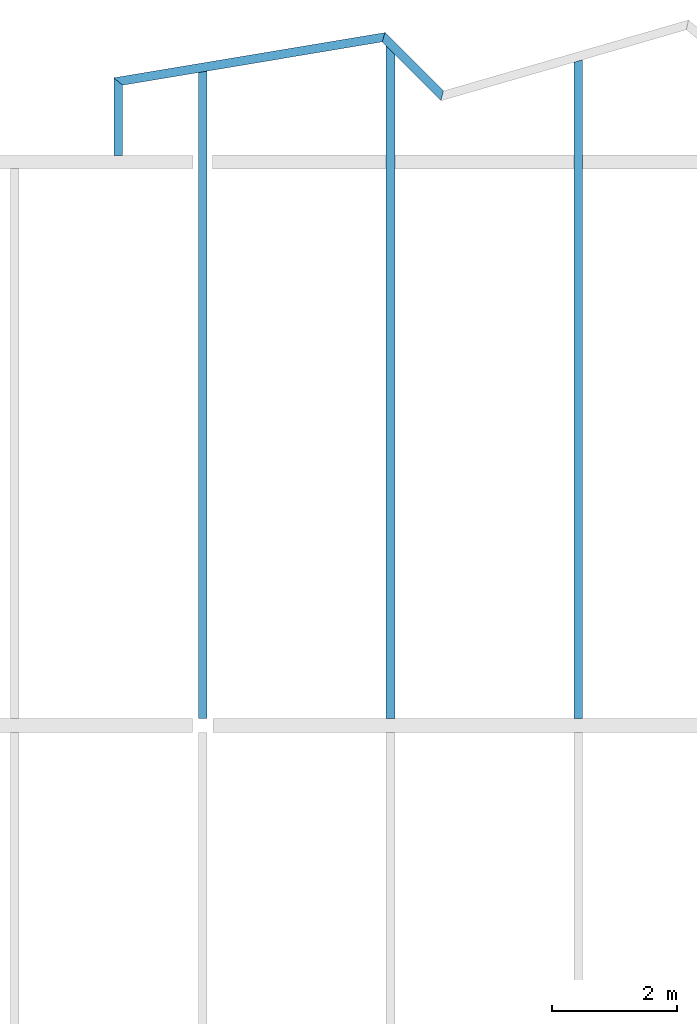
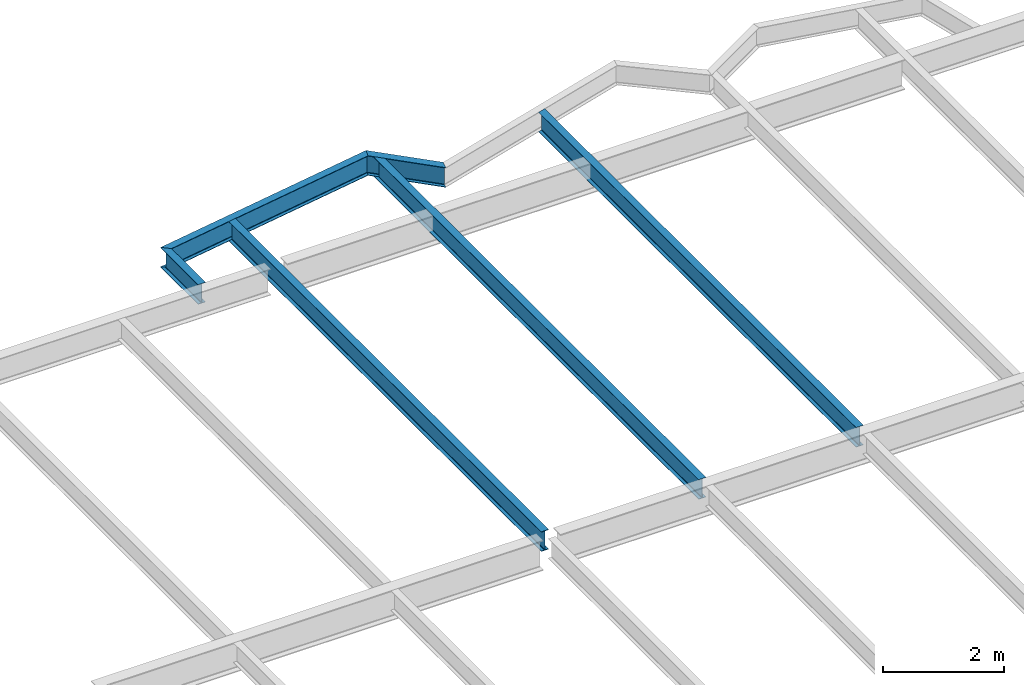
# One storey, part 10 of 26: 6 beams.
"""IFC2X3 building model written with IfcOpenShell, lengths in millimetres."""

import ifcopenshell
import ifcopenshell.guid

model = None  # the IFC model being written
_history = None  # IfcOwnerHistory: only IFC2X3 demands one
_inside = {}  # id of a spatial element -> (the spatial element, [elements in it])
_under = {}  # id of a project, library or spatial element -> (it, [spatial elements below it])
_declared = {}  # id of a project -> (the project, [libraries it declares])
_typed = {}  # id of a type object -> (the type object, [elements of that type])
_made_of = {}  # id of a material, layer set ... -> (it, [elements and type objects made of it])


def new_model(schema):
    """Start an empty IFC model of exactly this schema.

    Asked for "IFC4X3", IfcOpenShell would pick the latest addendum, in which some entities
    have other attributes; the version numbers below select the first issue.
    IFC2X3 requires an IfcOwnerHistory on every rooted entity: one is made here for all.
    """
    global model, _history
    if schema == "IFC4X3":
        model = ifcopenshell.file(schema_version=(4, 3, 0, 0))
    else:
        model = ifcopenshell.file(schema=schema)
    _inside.clear()
    _under.clear()
    _declared.clear()
    _typed.clear()
    _made_of.clear()
    _history = None
    if model.schema == "IFC2X3":
        org = make("IfcOrganization", Name="unknown")
        user = make(
            "IfcPersonAndOrganization",
            ThePerson=make("IfcPerson", FamilyName="unknown"),
            TheOrganization=org,
        )
        app = make(
            "IfcApplication",
            ApplicationDeveloper=org,
            Version="unknown",
            ApplicationFullName="unknown",
            ApplicationIdentifier="unknown",
        )
        _history = make(
            "IfcOwnerHistory",
            OwningUser=user,
            OwningApplication=app,
            ChangeAction="ADDED",
            CreationDate=0,
        )
    return model


def make(cls, **values):
    """One entity of the class cls with the attributes given. An attribute that is None is left unset."""
    return model.create_entity(
        cls, **{name: value for name, value in values.items() if value is not None}
    )


def rooted(cls, **values):
    """An entity with a GlobalId (a new one), such as an element, a storey or a relation."""
    return make(cls, GlobalId=ifcopenshell.guid.new(), OwnerHistory=_history, **values)


def si_unit(unit_type, name, prefix=None):
    """IfcSIUnit, for example si_unit("LENGTHUNIT", "METRE", prefix="MILLI")."""
    return make("IfcSIUnit", UnitType=unit_type, Prefix=prefix, Name=name)


def assignment(units):
    """IfcUnitAssignment: the units of a project."""
    return None if units is None else make("IfcUnitAssignment", Units=units)


def point(xyz):
    """IfcCartesianPoint."""
    return None if xyz is None else make("IfcCartesianPoint", Coordinates=xyz)


def direction(xyz):
    """IfcDirection."""
    return None if xyz is None else make("IfcDirection", DirectionRatios=xyz)


def frame(location, z_axis=None, x_axis=None):
    """IfcAxis2Placement3D, a coordinate frame: its origin and axes. An axis left out is left unset."""
    return make(
        "IfcAxis2Placement3D",
        Location=point(location),
        Axis=direction(z_axis),
        RefDirection=direction(x_axis),
    )


def origin():
    """The frame at (0, 0, 0) with its axes left unset."""
    return frame((0.0, 0.0, 0.0))


def place(relative_to, where):
    """IfcLocalPlacement: puts the frame where relative to a parent placement (None: the world)."""
    return make(
        "IfcLocalPlacement", PlacementRelTo=relative_to, RelativePlacement=where
    )


def context(
    kind, dimensions, precision=None, world=None, true_north=None, identifier=None
):
    """IfcGeometricRepresentationContext, for example the 3D "Model" context."""
    return make(
        "IfcGeometricRepresentationContext",
        ContextIdentifier=identifier,
        ContextType=kind,
        CoordinateSpaceDimension=dimensions,
        Precision=precision,
        WorldCoordinateSystem=world,
        TrueNorth=true_north,
    )


def project(units=None, contexts=None):
    """IfcProject with its units and contexts."""
    return rooted(
        "IfcProject",
        Name="project",
        RepresentationContexts=contexts,
        UnitsInContext=assignment(units),
    )


def spatial(cls, under=None, at=None, **own):
    """A site, building, storey or space (cls), placed at a placement, below another one or the project."""
    s = rooted(cls, ObjectPlacement=at, **own)
    if under is not None:
        _under.setdefault(under.id(), (under, []))[1].append(s)
    return s


def faces_of(points, faces, orient=None, outer=None):
    """IfcFace entities. A face is a list of loops; a loop is a list of indices into points, from 0.

    orient and outer hold one flag for each loop. By default every Orientation is true, the
    first loop of a face is its IfcFaceOuterBound and the others are IfcFaceBound.
    """
    made = []
    for i, loops in enumerate(faces):
        bounds = []
        for j, loop in enumerate(loops):
            is_outer = j == 0 if outer is None else outer[i][j]
            bounds.append(
                make(
                    "IfcFaceOuterBound" if is_outer else "IfcFaceBound",
                    Bound=make("IfcPolyLoop", Polygon=[points[k] for k in loop]),
                    Orientation=True if orient is None else orient[i][j],
                )
            )
        made.append(make("IfcFace", Bounds=bounds))
    return made


def faceted_brep(points, faces, orient=None, outer=None, voids=None):
    """IfcFacetedBrep: a solid bounded by flat faces; with voids (closed shells), ...WithVoids."""
    shared = [point(p) for p in points]
    hull = make("IfcClosedShell", CfsFaces=faces_of(shared, faces, orient, outer))
    if voids is None:
        return make("IfcFacetedBrep", Outer=hull)
    return make(
        "IfcFacetedBrepWithVoids",
        Outer=hull,
        Voids=[
            make(cls, CfsFaces=faces_of(shared, fs, o, b)) for cls, fs, o, b in voids
        ],
    )


def shape(context_of_items, identifier, shape_type, items):
    """IfcShapeRepresentation: the items that make up one representation, for example the "Body"."""
    return make(
        "IfcShapeRepresentation",
        ContextOfItems=context_of_items,
        RepresentationIdentifier=identifier,
        RepresentationType=shape_type,
        Items=items,
    )


def material(Name=None, Category=None):
    """IfcMaterial."""
    return make("IfcMaterial", Name=Name, Category=Category)


def made_of(thing, what):
    """Note that an element or type object is made of a material, layer set ...; save() writes the relation."""
    if what is not None:
        _made_of.setdefault(what.id(), (what, []))[1].append(thing)
    return thing


def element(
    cls,
    number,
    at=None,
    inside=None,
    cuts=None,
    type_object=None,
    material=None,
    context=None,
    identifier="Body",
    shape_type=None,
    held_by="IfcProductDefinitionShape",
    body=None,
    shapes=None,
    **own,
):
    """One element of the class cls, such as IfcWall. Its Tag is "e" and its number.

    at: its placement. inside: the storey or other place that contains it. cuts: it is an
    opening in that element (IfcRelVoidsElement). A single representation is given by context,
    identifier, shape_type and body (its items); several are given by shapes. held_by: the class
    of the entity that holds the representations. save() writes the other relations.
    """
    e = rooted(cls, Tag="e%d" % number, ObjectPlacement=at, **own)
    if body is not None:
        shapes = [shape(context, identifier, shape_type, body)]
    if shapes is not None:
        e.Representation = make(held_by, Representations=shapes)
    if inside is not None:
        _inside.setdefault(inside.id(), (inside, []))[1].append(e)
    if cuts is not None:
        rooted(
            "IfcRelVoidsElement", RelatingBuildingElement=cuts, RelatedOpeningElement=e
        )
    if type_object is not None:
        _typed.setdefault(type_object.id(), (type_object, []))[1].append(e)
    return made_of(e, material)


def aggregate(whole, parts):
    """IfcRelAggregates: a whole, such as a stair, and the parts it consists of."""
    return rooted("IfcRelAggregates", RelatingObject=whole, RelatedObjects=parts)


def save(model, path):
    """Write the relations noted so far, then the file.

    IfcRelAggregates (storeys below a building ...), IfcRelContainedInSpatialStructure (elements
    in a storey), IfcRelDefinesByType, IfcRelAssociatesMaterial and IfcRelDeclares: one each for
    every whole, place, type object, material and project.
    """
    for whole, parts in _under.values():
        aggregate(whole, parts)
    for where, things in _inside.values():
        rooted(
            "IfcRelContainedInSpatialStructure",
            RelatedElements=things,
            RelatingStructure=where,
        )
    for kind, things in _typed.values():
        rooted("IfcRelDefinesByType", RelatedObjects=things, RelatingType=kind)
    for what, things in _made_of.values():
        rooted("IfcRelAssociatesMaterial", RelatedObjects=things, RelatingMaterial=what)
    for by, libraries in _declared.values():
        rooted("IfcRelDeclares", RelatingContext=by, RelatedDefinitions=libraries)
    model.write(path)


model = new_model("IFC2X3")

# Units and contexts
context_of_model = context(None, 3, precision=1e-05, world=origin())
ifc_project = project(units=[si_unit("LENGTHUNIT", "METRE", prefix="MILLI")], contexts=[context_of_model])

# Building, storey
building = spatial("IfcBuilding", under=ifc_project, Name="Building", CompositionType="ELEMENT")
storey = spatial("IfcBuildingStorey", under=building, Name="FL4-FRM", CompositionType="ELEMENT")

# Beams
ifc_material_1 = material(Name="A992")
beam_1_placement = place(None, origin())
element("IfcBeam", 1, at=beam_1_placement, inside=storey, material=ifc_material_1, Name="B999", context=context_of_model, shape_type="Brep", body=[
    faceted_brep([(-42070.0, 37592.1, 12974.0), (-41930.0, 37632.7, 12974.0), (-41930.0, 27114.5, 12974.0), (-42070.0, 27114.5, 12974.0), (-41930.0, 37632.7, 12982.8), (-41930.0, 27114.5, 12982.8), (-41986.6, 37616.3, 12982.8), (-41986.6, 27114.5, 12982.8), (-41988.0, 37615.9, 12982.9), (-41988.1, 27114.5, 12982.9), (-41989.5, 37615.4, 12983.2), (-41989.5, 27114.5, 12983.2), (-41990.8, 37615.0, 12983.7), (-41990.8, 27114.5, 12983.7), (-41992.1, 37614.7, 12984.4), (-41992.1, 27114.5, 12984.4), (-41993.3, 37614.3, 12985.3), (-41993.3, 27114.5, 12985.3), (-41994.3, 37614.0, 12986.3), (-41994.3, 27114.5, 12986.3), (-41995.2, 37613.8, 12987.5), (-41995.2, 27114.5, 12987.5), (-41995.9, 37613.6, 12988.8), (-41995.9, 27114.5, 12988.8), (-41996.4, 37613.4, 12990.1), (-41996.4, 27114.5, 12990.1), (-41996.7, 37613.4, 12991.5), (-41996.7, 27114.5, 12991.5), (-41996.8, 37613.3, 12993.0), (-41996.8, 27114.5, 12993.0), (-41996.8, 37613.3, 13354.0), (-41996.8, 27114.5, 13354.0), (-41996.7, 37613.4, 13355.5), (-41996.7, 27114.5, 13355.5), (-41996.4, 37613.4, 13356.9), (-41996.4, 27114.5, 13356.9), (-41995.9, 37613.6, 13358.2), (-41995.9, 27114.5, 13358.2), (-41995.2, 37613.8, 13359.5), (-41995.2, 27114.5, 13359.5), (-41994.3, 37614.0, 13360.7), (-41994.3, 27114.5, 13360.7), (-41993.3, 37614.3, 13361.7), (-41993.3, 27114.5, 13361.7), (-41992.1, 37614.7, 13362.6), (-41992.1, 27114.5, 13362.6), (-41990.8, 37615.0, 13363.3), (-41990.8, 27114.5, 13363.3), (-41989.5, 37615.4, 13363.8), (-41989.5, 27114.5, 13363.8), (-41988.0, 37615.9, 13364.1), (-41988.1, 27114.5, 13364.1), (-41986.6, 37616.3, 13364.2), (-41986.6, 27114.5, 13364.2), (-41930.0, 37632.7, 13364.2), (-41930.0, 27114.5, 13364.2), (-41930.0, 37632.7, 13373.0), (-41930.0, 27114.5, 13373.0), (-42070.0, 37592.1, 13373.0), (-42070.0, 27114.5, 13373.0), (-42070.0, 37592.1, 13364.2), (-42070.0, 27114.5, 13364.2), (-42013.4, 37608.5, 13364.2), (-42013.4, 27114.5, 13364.2), (-42012.0, 37608.9, 13364.1), (-42011.9, 27114.5, 13364.1), (-42010.5, 37609.3, 13363.8), (-42010.5, 27114.5, 13363.8), (-42009.2, 37609.7, 13363.3), (-42009.2, 27114.5, 13363.3), (-42007.9, 37610.1, 13362.6), (-42007.9, 27114.5, 13362.6), (-42006.7, 37610.4, 13361.7), (-42006.7, 27114.5, 13361.7), (-42005.7, 37610.7, 13360.7), (-42005.7, 27114.5, 13360.7), (-42004.8, 37611.0, 13359.5), (-42004.8, 27114.5, 13359.5), (-42004.1, 37611.2, 13358.2), (-42004.1, 27114.5, 13358.2), (-42003.6, 37611.3, 13356.9), (-42003.6, 27114.5, 13356.9), (-42003.3, 37611.4, 13355.5), (-42003.3, 27114.5, 13355.5), (-42003.2, 37611.5, 13354.0), (-42003.2, 27114.5, 13354.0), (-42003.2, 37611.5, 12993.0), (-42003.2, 27114.5, 12993.0), (-42003.3, 37611.4, 12991.5), (-42003.3, 27114.5, 12991.5), (-42003.6, 37611.3, 12990.1), (-42003.6, 27114.5, 12990.1), (-42004.1, 37611.2, 12988.8), (-42004.1, 27114.5, 12988.8), (-42004.8, 37611.0, 12987.5), (-42004.8, 27114.5, 12987.5), (-42005.7, 37610.7, 12986.3), (-42005.7, 27114.5, 12986.3), (-42006.7, 37610.4, 12985.3), (-42006.7, 27114.5, 12985.3), (-42007.9, 37610.1, 12984.4), (-42007.9, 27114.5, 12984.4), (-42009.2, 37609.7, 12983.7), (-42009.2, 27114.5, 12983.7), (-42010.5, 37609.3, 12983.2), (-42010.5, 27114.5, 12983.2), (-42012.0, 37608.9, 12982.9), (-42011.9, 27114.5, 12982.9), (-42013.4, 37608.5, 12982.8), (-42013.4, 27114.5, 12982.8), (-42070.0, 37592.1, 12982.8), (-42070.0, 27114.5, 12982.8)], [[[0, 1, 2, 3]], [[1, 4, 5, 2]], [[4, 6, 7, 5]], [[6, 8, 9, 7]], [[8, 10, 11, 9]], [[10, 12, 13, 11]], [[12, 14, 15, 13]], [[14, 16, 17, 15]], [[16, 18, 19, 17]], [[18, 20, 21, 19]], [[20, 22, 23, 21]], [[22, 24, 25, 23]], [[24, 26, 27, 25]], [[26, 28, 29, 27]], [[28, 30, 31, 29]], [[30, 32, 33, 31]], [[32, 34, 35, 33]], [[34, 36, 37, 35]], [[36, 38, 39, 37]], [[38, 40, 41, 39]], [[40, 42, 43, 41]], [[42, 44, 45, 43]], [[44, 46, 47, 45]], [[46, 48, 49, 47]], [[48, 50, 51, 49]], [[50, 52, 53, 51]], [[52, 54, 55, 53]], [[54, 56, 57, 55]], [[56, 58, 59, 57]], [[58, 60, 61, 59]], [[60, 62, 63, 61]], [[62, 64, 65, 63]], [[64, 66, 67, 65]], [[66, 68, 69, 67]], [[68, 70, 71, 69]], [[70, 72, 73, 71]], [[72, 74, 75, 73]], [[74, 76, 77, 75]], [[76, 78, 79, 77]], [[78, 80, 81, 79]], [[80, 82, 83, 81]], [[82, 84, 85, 83]], [[84, 86, 87, 85]], [[86, 88, 89, 87]], [[88, 90, 91, 89]], [[90, 92, 93, 91]], [[92, 94, 95, 93]], [[94, 96, 97, 95]], [[96, 98, 99, 97]], [[98, 100, 101, 99]], [[100, 102, 103, 101]], [[102, 104, 105, 103]], [[104, 106, 107, 105]], [[106, 108, 109, 107]], [[108, 110, 111, 109]], [[110, 0, 3, 111]], [[0, 110, 108, 106, 104, 102, 100, 98, 96, 94, 92, 90, 88, 86, 84, 82, 80, 78, 76, 74, 72, 70, 68, 66, 64, 62, 60, 58, 56, 54, 52, 50, 48, 46, 44, 42, 40, 38, 36, 34, 32, 30, 28, 26, 24, 22, 20, 18, 16, 14, 12, 10, 8, 6, 4, 1]], [[3, 2, 5, 7, 9, 11, 13, 15, 17, 19, 21, 23, 25, 27, 29, 31, 33, 35, 37, 39, 41, 43, 45, 47, 49, 51, 53, 55, 57, 59, 61, 63, 65, 67, 69, 71, 73, 75, 77, 79, 81, 83, 85, 87, 89, 91, 93, 95, 97, 99, 101, 103, 105, 107, 109, 111]]]),
])
ifc_material_2 = material(Name="A992")
beam_2_placement = place(None, origin())
element("IfcBeam", 2, at=beam_2_placement, inside=storey, material=ifc_material_2, Name="B1000", context=context_of_model, shape_type="Brep", body=[
    faceted_brep([(-45135.0, 37916.8, 12974.0), (-45087.0, 38066.7, 12974.0), (-44154.7, 37134.4, 12974.0), (-44195.2, 36976.9, 12974.0), (-45087.0, 38066.7, 12982.8), (-44154.7, 37134.4, 12982.8), (-45106.4, 38006.1, 12982.8), (-44171.0, 37070.8, 12982.8), (-45106.9, 38004.4, 12982.9), (-44171.5, 37069.0, 12982.9), (-45107.5, 38002.7, 12983.3), (-44172.0, 37067.2, 12983.3), (-45108.0, 38001.1, 12983.9), (-44172.4, 37065.6, 12983.9), (-45108.4, 37999.7, 12984.7), (-44172.8, 37064.0, 12984.7), (-45108.9, 37998.4, 12985.8), (-44173.1, 37062.6, 12985.8), (-45109.2, 37997.3, 12987.0), (-44173.4, 37061.5, 12987.0), (-45109.5, 37996.4, 12988.4), (-44173.7, 37060.5, 12988.4), (-45109.7, 37995.7, 12989.8), (-44173.9, 37059.9, 12989.8), (-45109.8, 37995.3, 12991.4), (-44174.0, 37059.4, 12991.4), (-45109.9, 37995.2, 12993.0), (-44174.0, 37059.3, 12993.0), (-45109.9, 37995.2, 13354.0), (-44174.0, 37059.3, 13354.0), (-45109.8, 37995.3, 13355.6), (-44174.0, 37059.4, 13355.6), (-45109.7, 37995.7, 13357.2), (-44173.9, 37059.9, 13357.2), (-45109.5, 37996.4, 13358.6), (-44173.7, 37060.5, 13358.6), (-45109.2, 37997.3, 13360.0), (-44173.4, 37061.5, 13360.0), (-45108.9, 37998.4, 13361.2), (-44173.1, 37062.6, 13361.2), (-45108.4, 37999.7, 13362.3), (-44172.8, 37064.0, 13362.3), (-45108.0, 38001.1, 13363.1), (-44172.4, 37065.6, 13363.1), (-45107.5, 38002.7, 13363.7), (-44172.0, 37067.2, 13363.7), (-45106.9, 38004.4, 13364.1), (-44171.5, 37069.0, 13364.1), (-45106.4, 38006.1, 13364.2), (-44171.0, 37070.8, 13364.2), (-45087.0, 38066.7, 13364.2), (-44154.7, 37134.4, 13364.2), (-45087.0, 38066.7, 13373.0), (-44154.7, 37134.4, 13373.0), (-45135.0, 37916.8, 13373.0), (-44195.2, 36976.9, 13373.0), (-45135.0, 37916.8, 13364.2), (-44195.2, 36976.9, 13364.2), (-45115.6, 37977.4, 13364.2), (-44178.8, 37040.6, 13364.2), (-45115.0, 37979.1, 13364.1), (-44178.3, 37042.4, 13364.1), (-45114.5, 37980.8, 13363.7), (-44177.9, 37044.2, 13363.7), (-45114.0, 37982.3, 13363.1), (-44177.5, 37045.8, 13363.1), (-45113.5, 37983.8, 13362.3), (-44177.1, 37047.3, 13362.3), (-45113.1, 37985.1, 13361.2), (-44176.7, 37048.7, 13361.2), (-45112.8, 37986.2, 13360.0), (-44176.4, 37049.9, 13360.0), (-45112.5, 37987.1, 13358.6), (-44176.2, 37050.8, 13358.6), (-45112.3, 37987.8, 13357.2), (-44176.0, 37051.5, 13357.2), (-45112.1, 37988.2, 13355.6), (-44175.9, 37051.9, 13355.6), (-45112.1, 37988.3, 13354.0), (-44175.9, 37052.1, 13354.0), (-45112.1, 37988.3, 12993.0), (-44175.9, 37052.1, 12993.0), (-45112.1, 37988.2, 12991.4), (-44175.9, 37051.9, 12991.4), (-45112.3, 37987.8, 12989.8), (-44176.0, 37051.5, 12989.8), (-45112.5, 37987.1, 12988.4), (-44176.2, 37050.8, 12988.4), (-45112.8, 37986.2, 12987.0), (-44176.4, 37049.9, 12987.0), (-45113.1, 37985.1, 12985.8), (-44176.7, 37048.7, 12985.8), (-45113.5, 37983.8, 12984.7), (-44177.1, 37047.3, 12984.7), (-45114.0, 37982.3, 12983.9), (-44177.5, 37045.8, 12983.9), (-45114.5, 37980.8, 12983.3), (-44177.9, 37044.2, 12983.3), (-45115.0, 37979.1, 12982.9), (-44178.3, 37042.4, 12982.9), (-45115.6, 37977.4, 12982.8), (-44178.8, 37040.6, 12982.8), (-45135.0, 37916.8, 12982.8), (-44195.2, 36976.9, 12982.8)], [[[0, 1, 2, 3]], [[1, 4, 5, 2]], [[4, 6, 7, 5]], [[6, 8, 9, 7]], [[8, 10, 11, 9]], [[10, 12, 13, 11]], [[12, 14, 15, 13]], [[14, 16, 17, 15]], [[16, 18, 19, 17]], [[18, 20, 21, 19]], [[20, 22, 23, 21]], [[22, 24, 25, 23]], [[24, 26, 27, 25]], [[26, 28, 29, 27]], [[28, 30, 31, 29]], [[30, 32, 33, 31]], [[32, 34, 35, 33]], [[34, 36, 37, 35]], [[36, 38, 39, 37]], [[38, 40, 41, 39]], [[40, 42, 43, 41]], [[42, 44, 45, 43]], [[44, 46, 47, 45]], [[46, 48, 49, 47]], [[48, 50, 51, 49]], [[50, 52, 53, 51]], [[52, 54, 55, 53]], [[54, 56, 57, 55]], [[56, 58, 59, 57]], [[58, 60, 61, 59]], [[60, 62, 63, 61]], [[62, 64, 65, 63]], [[64, 66, 67, 65]], [[66, 68, 69, 67]], [[68, 70, 71, 69]], [[70, 72, 73, 71]], [[72, 74, 75, 73]], [[74, 76, 77, 75]], [[76, 78, 79, 77]], [[78, 80, 81, 79]], [[80, 82, 83, 81]], [[82, 84, 85, 83]], [[84, 86, 87, 85]], [[86, 88, 89, 87]], [[88, 90, 91, 89]], [[90, 92, 93, 91]], [[92, 94, 95, 93]], [[94, 96, 97, 95]], [[96, 98, 99, 97]], [[98, 100, 101, 99]], [[100, 102, 103, 101]], [[102, 0, 3, 103]], [[0, 102, 100, 98, 96, 94, 92, 90, 88, 86, 84, 82, 80, 78, 76, 74, 72, 70, 68, 66, 64, 62, 60, 58, 56, 54, 52, 50, 48, 46, 44, 42, 40, 38, 36, 34, 32, 30, 28, 26, 24, 22, 20, 18, 16, 14, 12, 10, 8, 6, 4, 1]], [[3, 2, 5, 7, 9, 11, 13, 15, 17, 19, 21, 23, 25, 27, 29, 31, 33, 35, 37, 39, 41, 43, 45, 47, 49, 51, 53, 55, 57, 59, 61, 63, 65, 67, 69, 71, 73, 75, 77, 79, 81, 83, 85, 87, 89, 91, 93, 95, 97, 99, 101, 103]]]),
])
ifc_material_3 = material(Name="A992")
beam_3_placement = place(None, origin())
element("IfcBeam", 3, at=beam_3_placement, inside=storey, material=ifc_material_3, Name="B1001", context=context_of_model, shape_type="Brep", body=[
    faceted_brep([(-45070.0, 37851.8, 12974.0), (-44930.0, 37711.8, 12974.0), (-44930.0, 27114.5, 12974.0), (-45070.0, 27114.5, 12974.0), (-44930.0, 37711.8, 12982.8), (-44930.0, 27114.5, 12982.8), (-44986.6, 37768.4, 12982.8), (-44986.6, 27114.5, 12982.8), (-44988.0, 37769.8, 12982.9), (-44988.1, 27114.5, 12982.9), (-44989.5, 37771.2, 12983.2), (-44989.5, 27114.5, 12983.2), (-44990.8, 37772.6, 12983.7), (-44990.8, 27114.5, 12983.7), (-44992.1, 37773.8, 12984.4), (-44992.1, 27114.5, 12984.4), (-44993.3, 37775.0, 12985.3), (-44993.3, 27114.5, 12985.3), (-44994.3, 37776.0, 12986.3), (-44994.3, 27114.5, 12986.3), (-44995.2, 37776.9, 12987.4), (-44995.2, 27114.5, 12987.5), (-44995.9, 37777.6, 12988.7), (-44995.9, 27114.5, 12988.8), (-44996.4, 37778.1, 12990.1), (-44996.4, 27114.5, 12990.1), (-44996.7, 37778.4, 12991.5), (-44996.7, 27114.5, 12991.5), (-44996.8, 37778.6, 12993.0), (-44996.8, 27114.5, 12993.0), (-44996.8, 37778.6, 13354.0), (-44996.8, 27114.5, 13354.0), (-44996.7, 37778.4, 13355.5), (-44996.7, 27114.5, 13355.5), (-44996.4, 37778.1, 13356.9), (-44996.4, 27114.5, 13356.9), (-44995.9, 37777.6, 13358.3), (-44995.9, 27114.5, 13358.2), (-44995.2, 37776.9, 13359.6), (-44995.2, 27114.5, 13359.5), (-44994.3, 37776.0, 13360.7), (-44994.3, 27114.5, 13360.7), (-44993.3, 37775.0, 13361.7), (-44993.3, 27114.5, 13361.7), (-44992.1, 37773.8, 13362.6), (-44992.1, 27114.5, 13362.6), (-44990.8, 37772.6, 13363.3), (-44990.8, 27114.5, 13363.3), (-44989.5, 37771.2, 13363.8), (-44989.5, 27114.5, 13363.8), (-44988.0, 37769.8, 13364.1), (-44988.1, 27114.5, 13364.1), (-44986.6, 37768.4, 13364.2), (-44986.6, 27114.5, 13364.2), (-44930.0, 37711.8, 13364.2), (-44930.0, 27114.5, 13364.2), (-44930.0, 37711.8, 13373.0), (-44930.0, 27114.5, 13373.0), (-45070.0, 37851.8, 13373.0), (-45070.0, 27114.5, 13373.0), (-45070.0, 37851.8, 13364.2), (-45070.0, 27114.5, 13364.2), (-45013.4, 37795.2, 13364.2), (-45013.4, 27114.5, 13364.2), (-45012.0, 37793.7, 13364.1), (-45011.9, 27114.5, 13364.1), (-45010.5, 37792.3, 13363.8), (-45010.5, 27114.5, 13363.8), (-45009.2, 37790.9, 13363.3), (-45009.2, 27114.5, 13363.3), (-45007.9, 37789.7, 13362.6), (-45007.9, 27114.5, 13362.6), (-45006.7, 37788.5, 13361.7), (-45006.7, 27114.5, 13361.7), (-45005.7, 37787.5, 13360.7), (-45005.7, 27114.5, 13360.7), (-45004.8, 37786.6, 13359.6), (-45004.8, 27114.5, 13359.5), (-45004.1, 37785.9, 13358.3), (-45004.1, 27114.5, 13358.2), (-45003.6, 37785.4, 13356.9), (-45003.6, 27114.5, 13356.9), (-45003.3, 37785.1, 13355.5), (-45003.3, 27114.5, 13355.5), (-45003.2, 37785.0, 13354.0), (-45003.2, 27114.5, 13354.0), (-45003.2, 37785.0, 12993.0), (-45003.2, 27114.5, 12993.0), (-45003.3, 37785.1, 12991.5), (-45003.3, 27114.5, 12991.5), (-45003.6, 37785.4, 12990.1), (-45003.6, 27114.5, 12990.1), (-45004.1, 37785.9, 12988.7), (-45004.1, 27114.5, 12988.8), (-45004.8, 37786.6, 12987.4), (-45004.8, 27114.5, 12987.5), (-45005.7, 37787.5, 12986.3), (-45005.7, 27114.5, 12986.3), (-45006.7, 37788.5, 12985.3), (-45006.7, 27114.5, 12985.3), (-45007.9, 37789.7, 12984.4), (-45007.9, 27114.5, 12984.4), (-45009.2, 37790.9, 12983.7), (-45009.2, 27114.5, 12983.7), (-45010.5, 37792.3, 12983.2), (-45010.5, 27114.5, 12983.2), (-45012.0, 37793.7, 12982.9), (-45011.9, 27114.5, 12982.9), (-45013.4, 37795.2, 12982.8), (-45013.4, 27114.5, 12982.8), (-45070.0, 37851.8, 12982.8), (-45070.0, 27114.5, 12982.8)], [[[0, 1, 2, 3]], [[1, 4, 5, 2]], [[4, 6, 7, 5]], [[6, 8, 9, 7]], [[8, 10, 11, 9]], [[10, 12, 13, 11]], [[12, 14, 15, 13]], [[14, 16, 17, 15]], [[16, 18, 19, 17]], [[18, 20, 21, 19]], [[20, 22, 23, 21]], [[22, 24, 25, 23]], [[24, 26, 27, 25]], [[26, 28, 29, 27]], [[28, 30, 31, 29]], [[30, 32, 33, 31]], [[32, 34, 35, 33]], [[34, 36, 37, 35]], [[36, 38, 39, 37]], [[38, 40, 41, 39]], [[40, 42, 43, 41]], [[42, 44, 45, 43]], [[44, 46, 47, 45]], [[46, 48, 49, 47]], [[48, 50, 51, 49]], [[50, 52, 53, 51]], [[52, 54, 55, 53]], [[54, 56, 57, 55]], [[56, 58, 59, 57]], [[58, 60, 61, 59]], [[60, 62, 63, 61]], [[62, 64, 65, 63]], [[64, 66, 67, 65]], [[66, 68, 69, 67]], [[68, 70, 71, 69]], [[70, 72, 73, 71]], [[72, 74, 75, 73]], [[74, 76, 77, 75]], [[76, 78, 79, 77]], [[78, 80, 81, 79]], [[80, 82, 83, 81]], [[82, 84, 85, 83]], [[84, 86, 87, 85]], [[86, 88, 89, 87]], [[88, 90, 91, 89]], [[90, 92, 93, 91]], [[92, 94, 95, 93]], [[94, 96, 97, 95]], [[96, 98, 99, 97]], [[98, 100, 101, 99]], [[100, 102, 103, 101]], [[102, 104, 105, 103]], [[104, 106, 107, 105]], [[106, 108, 109, 107]], [[108, 110, 111, 109]], [[110, 0, 3, 111]], [[0, 110, 108, 106, 104, 102, 100, 98, 96, 94, 92, 90, 88, 86, 84, 82, 80, 78, 76, 74, 72, 70, 68, 66, 64, 62, 60, 58, 56, 54, 52, 50, 48, 46, 44, 42, 40, 38, 36, 34, 32, 30, 28, 26, 24, 22, 20, 18, 16, 14, 12, 10, 8, 6, 4, 1]], [[3, 2, 5, 7, 9, 11, 13, 15, 17, 19, 21, 23, 25, 27, 29, 31, 33, 35, 37, 39, 41, 43, 45, 47, 49, 51, 53, 55, 57, 59, 61, 63, 65, 67, 69, 71, 73, 75, 77, 79, 81, 83, 85, 87, 89, 91, 93, 95, 97, 99, 101, 103, 105, 107, 109, 111]]]),
])
ifc_material_4 = material(Name="A992")
beam_4_placement = place(None, origin())
element("IfcBeam", 4, at=beam_4_placement, inside=storey, material=ifc_material_4, Name="B1002", context=context_of_model, shape_type="Brep", body=[
    faceted_brep([(-49280.0, 37225.9, 12974.0), (-49420.0, 37344.5, 12974.0), (-45087.0, 38066.7, 12974.0), (-45135.0, 37916.8, 12974.0), (-49420.0, 37344.5, 12982.8), (-45087.0, 38066.7, 12982.8), (-49363.4, 37296.6, 12982.8), (-45106.4, 38006.1, 12982.8), (-49361.8, 37295.2, 12982.9), (-45106.9, 38004.4, 12982.9), (-49360.3, 37293.9, 12983.3), (-45107.5, 38002.7, 12983.3), (-49358.8, 37292.7, 12983.9), (-45108.0, 38001.1, 12983.9), (-49357.4, 37291.5, 12984.7), (-45108.4, 37999.7, 12984.7), (-49356.2, 37290.5, 12985.8), (-45108.9, 37998.4, 12985.8), (-49355.2, 37289.6, 12987.0), (-45109.2, 37997.3, 12987.0), (-49354.3, 37288.9, 12988.3), (-45109.5, 37996.4, 12988.4), (-49353.7, 37288.4, 12989.8), (-45109.7, 37995.7, 12989.8), (-49353.4, 37288.1, 12991.4), (-45109.8, 37995.3, 12991.4), (-49353.2, 37287.9, 12993.0), (-45109.9, 37995.2, 12993.0), (-49353.2, 37287.9, 13354.0), (-45109.9, 37995.2, 13354.0), (-49353.4, 37288.1, 13355.6), (-45109.8, 37995.3, 13355.6), (-49353.7, 37288.4, 13357.2), (-45109.7, 37995.7, 13357.2), (-49354.3, 37288.9, 13358.7), (-45109.5, 37996.4, 13358.6), (-49355.2, 37289.6, 13360.0), (-45109.2, 37997.3, 13360.0), (-49356.2, 37290.5, 13361.2), (-45108.9, 37998.4, 13361.2), (-49357.4, 37291.5, 13362.3), (-45108.4, 37999.7, 13362.3), (-49358.8, 37292.7, 13363.1), (-45108.0, 38001.1, 13363.1), (-49360.3, 37293.9, 13363.7), (-45107.5, 38002.7, 13363.7), (-49361.8, 37295.2, 13364.1), (-45106.9, 38004.4, 13364.1), (-49363.4, 37296.6, 13364.2), (-45106.4, 38006.1, 13364.2), (-49420.0, 37344.5, 13364.2), (-45087.0, 38066.7, 13364.2), (-49420.0, 37344.5, 13373.0), (-45087.0, 38066.7, 13373.0), (-49280.0, 37225.9, 13373.0), (-45135.0, 37916.8, 13373.0), (-49280.0, 37225.9, 13364.2), (-45135.0, 37916.8, 13364.2), (-49336.6, 37273.9, 13364.2), (-45115.6, 37977.4, 13364.2), (-49338.2, 37275.2, 13364.1), (-45115.0, 37979.1, 13364.1), (-49339.7, 37276.5, 13363.7), (-45114.5, 37980.8, 13363.7), (-49341.2, 37277.8, 13363.1), (-45114.0, 37982.3, 13363.1), (-49342.6, 37278.9, 13362.3), (-45113.5, 37983.8, 13362.3), (-49343.8, 37280.0, 13361.2), (-45113.1, 37985.1, 13361.2), (-49344.8, 37280.9, 13360.0), (-45112.8, 37986.2, 13360.0), (-49345.7, 37281.6, 13358.7), (-45112.5, 37987.1, 13358.6), (-49346.3, 37282.1, 13357.2), (-45112.3, 37987.8, 13357.2), (-49346.6, 37282.4, 13355.6), (-45112.1, 37988.2, 13355.6), (-49346.8, 37282.5, 13354.0), (-45112.1, 37988.3, 13354.0), (-49346.8, 37282.5, 12993.0), (-45112.1, 37988.3, 12993.0), (-49346.6, 37282.4, 12991.4), (-45112.1, 37988.2, 12991.4), (-49346.3, 37282.1, 12989.8), (-45112.3, 37987.8, 12989.8), (-49345.7, 37281.6, 12988.3), (-45112.5, 37987.1, 12988.4), (-49344.8, 37280.9, 12987.0), (-45112.8, 37986.2, 12987.0), (-49343.8, 37280.0, 12985.8), (-45113.1, 37985.1, 12985.8), (-49342.6, 37278.9, 12984.7), (-45113.5, 37983.8, 12984.7), (-49341.2, 37277.8, 12983.9), (-45114.0, 37982.3, 12983.9), (-49339.7, 37276.5, 12983.3), (-45114.5, 37980.8, 12983.3), (-49338.2, 37275.2, 12982.9), (-45115.0, 37979.1, 12982.9), (-49336.6, 37273.9, 12982.8), (-45115.6, 37977.4, 12982.8), (-49280.0, 37225.9, 12982.8), (-45135.0, 37916.8, 12982.8)], [[[0, 1, 2, 3]], [[1, 4, 5, 2]], [[4, 6, 7, 5]], [[6, 8, 9, 7]], [[8, 10, 11, 9]], [[10, 12, 13, 11]], [[12, 14, 15, 13]], [[14, 16, 17, 15]], [[16, 18, 19, 17]], [[18, 20, 21, 19]], [[20, 22, 23, 21]], [[22, 24, 25, 23]], [[24, 26, 27, 25]], [[26, 28, 29, 27]], [[28, 30, 31, 29]], [[30, 32, 33, 31]], [[32, 34, 35, 33]], [[34, 36, 37, 35]], [[36, 38, 39, 37]], [[38, 40, 41, 39]], [[40, 42, 43, 41]], [[42, 44, 45, 43]], [[44, 46, 47, 45]], [[46, 48, 49, 47]], [[48, 50, 51, 49]], [[50, 52, 53, 51]], [[52, 54, 55, 53]], [[54, 56, 57, 55]], [[56, 58, 59, 57]], [[58, 60, 61, 59]], [[60, 62, 63, 61]], [[62, 64, 65, 63]], [[64, 66, 67, 65]], [[66, 68, 69, 67]], [[68, 70, 71, 69]], [[70, 72, 73, 71]], [[72, 74, 75, 73]], [[74, 76, 77, 75]], [[76, 78, 79, 77]], [[78, 80, 81, 79]], [[80, 82, 83, 81]], [[82, 84, 85, 83]], [[84, 86, 87, 85]], [[86, 88, 89, 87]], [[88, 90, 91, 89]], [[90, 92, 93, 91]], [[92, 94, 95, 93]], [[94, 96, 97, 95]], [[96, 98, 99, 97]], [[98, 100, 101, 99]], [[100, 102, 103, 101]], [[102, 0, 3, 103]], [[0, 102, 100, 98, 96, 94, 92, 90, 88, 86, 84, 82, 80, 78, 76, 74, 72, 70, 68, 66, 64, 62, 60, 58, 56, 54, 52, 50, 48, 46, 44, 42, 40, 38, 36, 34, 32, 30, 28, 26, 24, 22, 20, 18, 16, 14, 12, 10, 8, 6, 4, 1]], [[3, 2, 5, 7, 9, 11, 13, 15, 17, 19, 21, 23, 25, 27, 29, 31, 33, 35, 37, 39, 41, 43, 45, 47, 49, 51, 53, 55, 57, 59, 61, 63, 65, 67, 69, 71, 73, 75, 77, 79, 81, 83, 85, 87, 89, 91, 93, 95, 97, 99, 101, 103]]]),
])
ifc_material_5 = material(Name="A992")
beam_5_placement = place(None, origin())
element("IfcBeam", 5, at=beam_5_placement, inside=storey, material=ifc_material_5, Name="B1003", context=context_of_model, shape_type="Brep", body=[
    faceted_brep([(-48070.0, 37427.6, 12974.0), (-47930.0, 37450.9, 12974.0), (-47930.0, 27114.5, 12974.0), (-48070.0, 27114.5, 12974.0), (-47930.0, 37450.9, 12982.8), (-47930.0, 27114.5, 12982.8), (-47986.6, 37441.5, 12982.8), (-47986.6, 27114.5, 12982.8), (-47988.1, 37441.3, 12982.9), (-47988.1, 27114.5, 12982.9), (-47989.5, 37441.0, 12983.2), (-47989.5, 27114.5, 12983.2), (-47990.8, 37440.8, 12983.7), (-47990.8, 27114.5, 12983.7), (-47992.1, 37440.6, 12984.4), (-47992.1, 27114.5, 12984.4), (-47993.3, 37440.4, 12985.3), (-47993.3, 27114.5, 12985.3), (-47994.3, 37440.2, 12986.3), (-47994.3, 27114.5, 12986.3), (-47995.2, 37440.1, 12987.5), (-47995.2, 27114.5, 12987.5), (-47995.9, 37440.0, 12988.8), (-47995.9, 27114.5, 12988.8), (-47996.4, 37439.9, 12990.1), (-47996.4, 27114.5, 12990.1), (-47996.7, 37439.8, 12991.5), (-47996.7, 27114.5, 12991.5), (-47996.8, 37439.8, 12993.0), (-47996.8, 27114.5, 12993.0), (-47996.8, 37439.8, 13354.0), (-47996.8, 27114.5, 13354.0), (-47996.7, 37439.8, 13355.5), (-47996.7, 27114.5, 13355.5), (-47996.4, 37439.9, 13356.9), (-47996.4, 27114.5, 13356.9), (-47995.9, 37440.0, 13358.2), (-47995.9, 27114.5, 13358.2), (-47995.2, 37440.1, 13359.5), (-47995.2, 27114.5, 13359.5), (-47994.3, 37440.2, 13360.7), (-47994.3, 27114.5, 13360.7), (-47993.3, 37440.4, 13361.7), (-47993.3, 27114.5, 13361.7), (-47992.1, 37440.6, 13362.6), (-47992.1, 27114.5, 13362.6), (-47990.8, 37440.8, 13363.3), (-47990.8, 27114.5, 13363.3), (-47989.5, 37441.0, 13363.8), (-47989.5, 27114.5, 13363.8), (-47988.1, 37441.3, 13364.1), (-47988.1, 27114.5, 13364.1), (-47986.6, 37441.5, 13364.2), (-47986.6, 27114.5, 13364.2), (-47930.0, 37450.9, 13364.2), (-47930.0, 27114.5, 13364.2), (-47930.0, 37450.9, 13373.0), (-47930.0, 27114.5, 13373.0), (-48070.0, 37427.6, 13373.0), (-48070.0, 27114.5, 13373.0), (-48070.0, 37427.6, 13364.2), (-48070.0, 27114.5, 13364.2), (-48013.4, 37437.0, 13364.2), (-48013.4, 27114.5, 13364.2), (-48011.9, 37437.3, 13364.1), (-48011.9, 27114.5, 13364.1), (-48010.5, 37437.5, 13363.8), (-48010.5, 27114.5, 13363.8), (-48009.2, 37437.7, 13363.3), (-48009.2, 27114.5, 13363.3), (-48007.9, 37438.0, 13362.6), (-48007.9, 27114.5, 13362.6), (-48006.7, 37438.2, 13361.7), (-48006.7, 27114.5, 13361.7), (-48005.7, 37438.3, 13360.7), (-48005.7, 27114.5, 13360.7), (-48004.8, 37438.5, 13359.5), (-48004.8, 27114.5, 13359.5), (-48004.1, 37438.6, 13358.2), (-48004.1, 27114.5, 13358.2), (-48003.6, 37438.7, 13356.9), (-48003.6, 27114.5, 13356.9), (-48003.3, 37438.7, 13355.5), (-48003.3, 27114.5, 13355.5), (-48003.2, 37438.7, 13354.0), (-48003.2, 27114.5, 13354.0), (-48003.2, 37438.7, 12993.0), (-48003.2, 27114.5, 12993.0), (-48003.3, 37438.7, 12991.5), (-48003.3, 27114.5, 12991.5), (-48003.6, 37438.7, 12990.1), (-48003.6, 27114.5, 12990.1), (-48004.1, 37438.6, 12988.8), (-48004.1, 27114.5, 12988.8), (-48004.8, 37438.5, 12987.5), (-48004.8, 27114.5, 12987.5), (-48005.7, 37438.3, 12986.3), (-48005.7, 27114.5, 12986.3), (-48006.7, 37438.2, 12985.3), (-48006.7, 27114.5, 12985.3), (-48007.9, 37438.0, 12984.4), (-48007.9, 27114.5, 12984.4), (-48009.2, 37437.7, 12983.7), (-48009.2, 27114.5, 12983.7), (-48010.5, 37437.5, 12983.2), (-48010.5, 27114.5, 12983.2), (-48011.9, 37437.3, 12982.9), (-48011.9, 27114.5, 12982.9), (-48013.4, 37437.0, 12982.8), (-48013.4, 27114.5, 12982.8), (-48070.0, 37427.6, 12982.8), (-48070.0, 27114.5, 12982.8)], [[[0, 1, 2, 3]], [[1, 4, 5, 2]], [[4, 6, 7, 5]], [[6, 8, 9, 7]], [[8, 10, 11, 9]], [[10, 12, 13, 11]], [[12, 14, 15, 13]], [[14, 16, 17, 15]], [[16, 18, 19, 17]], [[18, 20, 21, 19]], [[20, 22, 23, 21]], [[22, 24, 25, 23]], [[24, 26, 27, 25]], [[26, 28, 29, 27]], [[28, 30, 31, 29]], [[30, 32, 33, 31]], [[32, 34, 35, 33]], [[34, 36, 37, 35]], [[36, 38, 39, 37]], [[38, 40, 41, 39]], [[40, 42, 43, 41]], [[42, 44, 45, 43]], [[44, 46, 47, 45]], [[46, 48, 49, 47]], [[48, 50, 51, 49]], [[50, 52, 53, 51]], [[52, 54, 55, 53]], [[54, 56, 57, 55]], [[56, 58, 59, 57]], [[58, 60, 61, 59]], [[60, 62, 63, 61]], [[62, 64, 65, 63]], [[64, 66, 67, 65]], [[66, 68, 69, 67]], [[68, 70, 71, 69]], [[70, 72, 73, 71]], [[72, 74, 75, 73]], [[74, 76, 77, 75]], [[76, 78, 79, 77]], [[78, 80, 81, 79]], [[80, 82, 83, 81]], [[82, 84, 85, 83]], [[84, 86, 87, 85]], [[86, 88, 89, 87]], [[88, 90, 91, 89]], [[90, 92, 93, 91]], [[92, 94, 95, 93]], [[94, 96, 97, 95]], [[96, 98, 99, 97]], [[98, 100, 101, 99]], [[100, 102, 103, 101]], [[102, 104, 105, 103]], [[104, 106, 107, 105]], [[106, 108, 109, 107]], [[108, 110, 111, 109]], [[110, 0, 3, 111]], [[0, 110, 108, 106, 104, 102, 100, 98, 96, 94, 92, 90, 88, 86, 84, 82, 80, 78, 76, 74, 72, 70, 68, 66, 64, 62, 60, 58, 56, 54, 52, 50, 48, 46, 44, 42, 40, 38, 36, 34, 32, 30, 28, 26, 24, 22, 20, 18, 16, 14, 12, 10, 8, 6, 4, 1]], [[3, 2, 5, 7, 9, 11, 13, 15, 17, 19, 21, 23, 25, 27, 29, 31, 33, 35, 37, 39, 41, 43, 45, 47, 49, 51, 53, 55, 57, 59, 61, 63, 65, 67, 69, 71, 73, 75, 77, 79, 81, 83, 85, 87, 89, 91, 93, 95, 97, 99, 101, 103, 105, 107, 109, 111]]]),
])
ifc_material_6 = material(Name="A992")
beam_6_placement = place(None, origin())
element("IfcBeam", 6, at=beam_6_placement, inside=storey, material=ifc_material_6, Name="B1004", context=context_of_model, shape_type="Brep", body=[
    faceted_brep([(-49280.0, 36104.5, 12974.0), (-49420.0, 36104.5, 12974.0), (-49420.0, 37344.5, 12974.0), (-49280.0, 37225.9, 12974.0), (-49420.0, 36104.5, 12982.8), (-49420.0, 37344.5, 12982.8), (-49363.4, 36104.5, 12982.8), (-49363.4, 37296.6, 12982.8), (-49361.9, 36104.5, 12982.9), (-49362.0, 37295.4, 12982.9), (-49360.5, 36104.5, 12983.2), (-49360.5, 37294.2, 12983.2), (-49359.2, 36104.5, 12983.7), (-49359.2, 37293.0, 12983.7), (-49357.9, 36104.5, 12984.4), (-49357.9, 37291.9, 12984.4), (-49356.7, 36104.5, 12985.3), (-49356.7, 37290.9, 12985.3), (-49355.7, 36104.5, 12986.3), (-49355.7, 37290.1, 12986.3), (-49354.8, 36104.5, 12987.5), (-49354.8, 37289.3, 12987.4), (-49354.1, 36104.5, 12988.8), (-49354.1, 37288.7, 12988.7), (-49353.6, 36104.5, 12990.1), (-49353.6, 37288.3, 12990.1), (-49353.3, 36104.5, 12991.5), (-49353.3, 37288.1, 12991.5), (-49353.2, 36104.5, 12993.0), (-49353.2, 37287.9, 12993.0), (-49353.2, 36104.5, 13354.0), (-49353.2, 37287.9, 13354.0), (-49353.3, 36104.5, 13355.5), (-49353.3, 37288.1, 13355.5), (-49353.6, 36104.5, 13356.9), (-49353.6, 37288.3, 13356.9), (-49354.1, 36104.5, 13358.2), (-49354.1, 37288.7, 13358.3), (-49354.8, 36104.5, 13359.5), (-49354.8, 37289.3, 13359.6), (-49355.7, 36104.5, 13360.7), (-49355.7, 37290.1, 13360.7), (-49356.7, 36104.5, 13361.7), (-49356.7, 37290.9, 13361.7), (-49357.9, 36104.5, 13362.6), (-49357.9, 37291.9, 13362.6), (-49359.2, 36104.5, 13363.3), (-49359.2, 37293.0, 13363.3), (-49360.5, 36104.5, 13363.8), (-49360.5, 37294.2, 13363.8), (-49361.9, 36104.5, 13364.1), (-49362.0, 37295.4, 13364.1), (-49363.4, 36104.5, 13364.2), (-49363.4, 37296.6, 13364.2), (-49420.0, 36104.5, 13364.2), (-49420.0, 37344.5, 13364.2), (-49420.0, 36104.5, 13373.0), (-49420.0, 37344.5, 13373.0), (-49280.0, 36104.5, 13373.0), (-49280.0, 37225.9, 13373.0), (-49280.0, 36104.5, 13364.2), (-49280.0, 37225.9, 13364.2), (-49336.6, 36104.5, 13364.2), (-49336.6, 37273.9, 13364.2), (-49338.1, 36104.5, 13364.1), (-49338.0, 37275.1, 13364.1), (-49339.5, 36104.5, 13363.8), (-49339.5, 37276.3, 13363.8), (-49340.8, 36104.5, 13363.3), (-49340.8, 37277.5, 13363.3), (-49342.1, 36104.5, 13362.6), (-49342.1, 37278.5, 13362.6), (-49343.3, 36104.5, 13361.7), (-49343.3, 37279.5, 13361.7), (-49344.3, 36104.5, 13360.7), (-49344.3, 37280.4, 13360.7), (-49345.2, 36104.5, 13359.5), (-49345.2, 37281.1, 13359.6), (-49345.9, 36104.5, 13358.2), (-49345.9, 37281.7, 13358.3), (-49346.4, 36104.5, 13356.9), (-49346.4, 37282.2, 13356.9), (-49346.7, 36104.5, 13355.5), (-49346.7, 37282.4, 13355.5), (-49346.8, 36104.5, 13354.0), (-49346.8, 37282.5, 13354.0), (-49346.8, 36104.5, 12993.0), (-49346.8, 37282.5, 12993.0), (-49346.7, 36104.5, 12991.5), (-49346.7, 37282.4, 12991.5), (-49346.4, 36104.5, 12990.1), (-49346.4, 37282.2, 12990.1), (-49345.9, 36104.5, 12988.8), (-49345.9, 37281.7, 12988.7), (-49345.2, 36104.5, 12987.5), (-49345.2, 37281.1, 12987.4), (-49344.3, 36104.5, 12986.3), (-49344.3, 37280.4, 12986.3), (-49343.3, 36104.5, 12985.3), (-49343.3, 37279.5, 12985.3), (-49342.1, 36104.5, 12984.4), (-49342.1, 37278.5, 12984.4), (-49340.8, 36104.5, 12983.7), (-49340.8, 37277.5, 12983.7), (-49339.5, 36104.5, 12983.2), (-49339.5, 37276.3, 12983.2), (-49338.1, 36104.5, 12982.9), (-49338.0, 37275.1, 12982.9), (-49336.6, 36104.5, 12982.8), (-49336.6, 37273.9, 12982.8), (-49280.0, 36104.5, 12982.8), (-49280.0, 37225.9, 12982.8)], [[[0, 1, 2, 3]], [[1, 4, 5, 2]], [[4, 6, 7, 5]], [[6, 8, 9, 7]], [[8, 10, 11, 9]], [[10, 12, 13, 11]], [[12, 14, 15, 13]], [[14, 16, 17, 15]], [[16, 18, 19, 17]], [[18, 20, 21, 19]], [[20, 22, 23, 21]], [[22, 24, 25, 23]], [[24, 26, 27, 25]], [[26, 28, 29, 27]], [[28, 30, 31, 29]], [[30, 32, 33, 31]], [[32, 34, 35, 33]], [[34, 36, 37, 35]], [[36, 38, 39, 37]], [[38, 40, 41, 39]], [[40, 42, 43, 41]], [[42, 44, 45, 43]], [[44, 46, 47, 45]], [[46, 48, 49, 47]], [[48, 50, 51, 49]], [[50, 52, 53, 51]], [[52, 54, 55, 53]], [[54, 56, 57, 55]], [[56, 58, 59, 57]], [[58, 60, 61, 59]], [[60, 62, 63, 61]], [[62, 64, 65, 63]], [[64, 66, 67, 65]], [[66, 68, 69, 67]], [[68, 70, 71, 69]], [[70, 72, 73, 71]], [[72, 74, 75, 73]], [[74, 76, 77, 75]], [[76, 78, 79, 77]], [[78, 80, 81, 79]], [[80, 82, 83, 81]], [[82, 84, 85, 83]], [[84, 86, 87, 85]], [[86, 88, 89, 87]], [[88, 90, 91, 89]], [[90, 92, 93, 91]], [[92, 94, 95, 93]], [[94, 96, 97, 95]], [[96, 98, 99, 97]], [[98, 100, 101, 99]], [[100, 102, 103, 101]], [[102, 104, 105, 103]], [[104, 106, 107, 105]], [[106, 108, 109, 107]], [[108, 110, 111, 109]], [[110, 0, 3, 111]], [[0, 110, 108, 106, 104, 102, 100, 98, 96, 94, 92, 90, 88, 86, 84, 82, 80, 78, 76, 74, 72, 70, 68, 66, 64, 62, 60, 58, 56, 54, 52, 50, 48, 46, 44, 42, 40, 38, 36, 34, 32, 30, 28, 26, 24, 22, 20, 18, 16, 14, 12, 10, 8, 6, 4, 1]], [[3, 2, 5, 7, 9, 11, 13, 15, 17, 19, 21, 23, 25, 27, 29, 31, 33, 35, 37, 39, 41, 43, 45, 47, 49, 51, 53, 55, 57, 59, 61, 63, 65, 67, 69, 71, 73, 75, 77, 79, 81, 83, 85, 87, 89, 91, 93, 95, 97, 99, 101, 103, 105, 107, 109, 111]]]),
])

save(model, "model.ifc")
